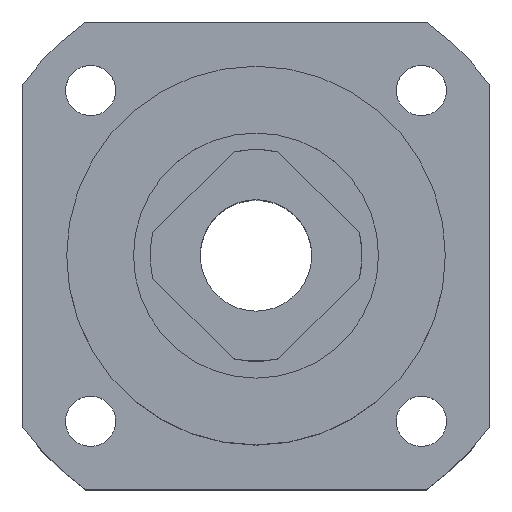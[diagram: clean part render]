
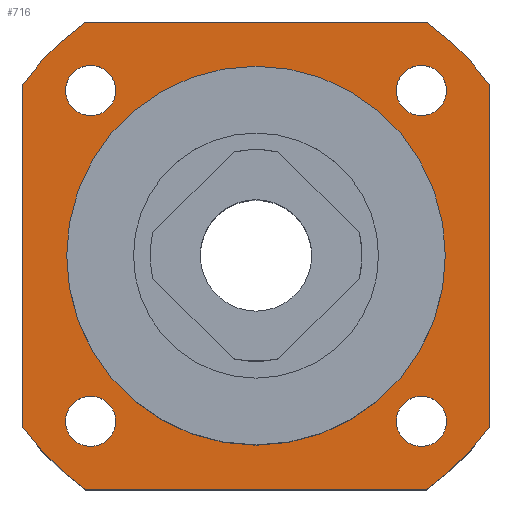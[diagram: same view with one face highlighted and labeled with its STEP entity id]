
A CAD part, top view. The second image highlights one B-rep face of the part: STEP entity #716.
In plain terms, the highlighted planar face has unit normal (0, 0, 1).
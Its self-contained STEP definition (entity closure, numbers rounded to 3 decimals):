
#35=LINE($,#1340,#67);
#38=LINE($,#1348,#70);
#41=LINE($,#1356,#73);
#44=LINE($,#1363,#76);
#67=VECTOR($,#1000,30.659);
#70=VECTOR($,#1009,30.659);
#73=VECTOR($,#1018,30.659);
#76=VECTOR($,#1027,30.659);
#190=FACE_BOUND($,#278,.T.);
#191=FACE_BOUND($,#279,.T.);
#192=FACE_BOUND($,#280,.T.);
#193=FACE_BOUND($,#281,.T.);
#194=FACE_BOUND($,#282,.T.);
#195=FACE_BOUND($,#283,.T.);
#278=EDGE_LOOP($,(#637));
#279=EDGE_LOOP($,(#638));
#280=EDGE_LOOP($,(#639));
#281=EDGE_LOOP($,(#640));
#282=EDGE_LOOP($,(#641));
#283=EDGE_LOOP($,(#642,#643,#644,#645,#646,#647,#648,#649));
#320=CIRCLE($,#788,2.25);
#321=CIRCLE($,#790,2.25);
#322=CIRCLE($,#792,2.25);
#323=CIRCLE($,#794,2.25);
#325=CIRCLE($,#797,17.);
#326=CIRCLE($,#800,26.);
#327=CIRCLE($,#803,26.);
#328=CIRCLE($,#806,26.);
#329=CIRCLE($,#809,26.);
#384=VERTEX_POINT($,#1315);
#385=VERTEX_POINT($,#1318);
#386=VERTEX_POINT($,#1321);
#387=VERTEX_POINT($,#1324);
#389=VERTEX_POINT($,#1329);
#390=VERTEX_POINT($,#1333);
#391=VERTEX_POINT($,#1335);
#392=VERTEX_POINT($,#1339);
#393=VERTEX_POINT($,#1343);
#394=VERTEX_POINT($,#1347);
#395=VERTEX_POINT($,#1351);
#396=VERTEX_POINT($,#1355);
#397=VERTEX_POINT($,#1359);
#460=EDGE_CURVE($,#384,#384,#320,.T.);
#461=EDGE_CURVE($,#385,#385,#321,.T.);
#462=EDGE_CURVE($,#386,#386,#322,.T.);
#463=EDGE_CURVE($,#387,#387,#323,.T.);
#465=EDGE_CURVE($,#389,#389,#325,.T.);
#467=EDGE_CURVE($,#391,#390,#326,.T.);
#469=EDGE_CURVE($,#392,#391,#35,.T.);
#471=EDGE_CURVE($,#393,#392,#327,.T.);
#473=EDGE_CURVE($,#394,#393,#38,.T.);
#475=EDGE_CURVE($,#395,#394,#328,.T.);
#477=EDGE_CURVE($,#396,#395,#41,.T.);
#479=EDGE_CURVE($,#397,#396,#329,.T.);
#481=EDGE_CURVE($,#390,#397,#44,.T.);
#637=ORIENTED_EDGE($,*,*,#460,.T.);
#638=ORIENTED_EDGE($,*,*,#461,.T.);
#639=ORIENTED_EDGE($,*,*,#462,.T.);
#640=ORIENTED_EDGE($,*,*,#463,.T.);
#641=ORIENTED_EDGE($,*,*,#465,.T.);
#642=ORIENTED_EDGE($,*,*,#481,.T.);
#643=ORIENTED_EDGE($,*,*,#479,.T.);
#644=ORIENTED_EDGE($,*,*,#477,.T.);
#645=ORIENTED_EDGE($,*,*,#475,.T.);
#646=ORIENTED_EDGE($,*,*,#473,.T.);
#647=ORIENTED_EDGE($,*,*,#471,.T.);
#648=ORIENTED_EDGE($,*,*,#469,.T.);
#649=ORIENTED_EDGE($,*,*,#467,.T.);
#670=PLANE($,#811);
#716=ADVANCED_FACE($,(#190,#191,#192,#193,#194,#195),#670,.T.);
#788=AXIS2_PLACEMENT_3D($,#1316,#970,#971);
#790=AXIS2_PLACEMENT_3D($,#1319,#974,#975);
#792=AXIS2_PLACEMENT_3D($,#1322,#978,#979);
#794=AXIS2_PLACEMENT_3D($,#1325,#982,#983);
#797=AXIS2_PLACEMENT_3D($,#1330,#988,#989);
#800=AXIS2_PLACEMENT_3D($,#1336,#995,#996);
#803=AXIS2_PLACEMENT_3D($,#1344,#1004,#1005);
#806=AXIS2_PLACEMENT_3D($,#1352,#1013,#1014);
#809=AXIS2_PLACEMENT_3D($,#1360,#1022,#1023);
#811=AXIS2_PLACEMENT_3D($,#1364,#1028,#1029);
#970=DIRECTION('center_axis',(0.,0.,-1.));
#971=DIRECTION('ref_axis',(-1.,0.,0.));
#974=DIRECTION('center_axis',(0.,0.,-1.));
#975=DIRECTION('ref_axis',(-1.,0.,0.));
#978=DIRECTION('center_axis',(0.,0.,-1.));
#979=DIRECTION('ref_axis',(-1.,0.,0.));
#982=DIRECTION('center_axis',(0.,0.,-1.));
#983=DIRECTION('ref_axis',(-1.,0.,0.));
#988=DIRECTION('center_axis',(0.,0.,-1.));
#989=DIRECTION('ref_axis',(-1.,0.,0.));
#995=DIRECTION('center_axis',(0.,0.,1.));
#996=DIRECTION('ref_axis',(-0.808,-0.59,0.));
#1000=DIRECTION($,(0.,1.,0.));
#1004=DIRECTION('center_axis',(0.,0.,1.));
#1005=DIRECTION('ref_axis',(-0.59,0.808,0.));
#1009=DIRECTION($,(1.,0.,0.));
#1013=DIRECTION('center_axis',(0.,0.,1.));
#1014=DIRECTION('ref_axis',(0.808,0.59,0.));
#1018=DIRECTION($,(0.,-1.,0.));
#1022=DIRECTION('center_axis',(0.,0.,1.));
#1023=DIRECTION('ref_axis',(0.59,-0.808,0.));
#1027=DIRECTION($,(-1.,0.,0.));
#1028=DIRECTION('center_axis',(0.,0.,1.));
#1029=DIRECTION('ref_axis',(1.,0.,0.));
#1315=CARTESIAN_POINT('',(-12.599,-14.849,5.));
#1316=CARTESIAN_POINT('Origin',(-14.849,-14.849,5.));
#1318=CARTESIAN_POINT('',(17.099,14.849,5.));
#1319=CARTESIAN_POINT('Origin',(14.849,14.849,5.));
#1321=CARTESIAN_POINT('',(17.099,-14.849,5.));
#1322=CARTESIAN_POINT('Origin',(14.849,-14.849,5.));
#1324=CARTESIAN_POINT('',(-12.599,14.849,5.));
#1325=CARTESIAN_POINT('Origin',(-14.849,14.849,5.));
#1329=CARTESIAN_POINT('',(17.,0.,5.));
#1330=CARTESIAN_POINT('Origin',(0.,0.,5.));
#1333=CARTESIAN_POINT('',(15.33,21.,5.));
#1335=CARTESIAN_POINT('',(21.,15.33,5.));
#1336=CARTESIAN_POINT('Origin',(0.,0.,5.));
#1339=CARTESIAN_POINT('',(21.,-15.33,5.));
#1340=CARTESIAN_POINT($,(21.,15.33,5.));
#1343=CARTESIAN_POINT('',(15.33,-21.,5.));
#1344=CARTESIAN_POINT('Origin',(0.,0.,5.));
#1347=CARTESIAN_POINT('',(-15.33,-21.,5.));
#1348=CARTESIAN_POINT($,(15.33,-21.,5.));
#1351=CARTESIAN_POINT('',(-21.,-15.33,5.));
#1352=CARTESIAN_POINT('Origin',(0.,0.,5.));
#1355=CARTESIAN_POINT('',(-21.,15.33,5.));
#1356=CARTESIAN_POINT($,(-21.,-15.33,5.));
#1359=CARTESIAN_POINT('',(-15.33,21.,5.));
#1360=CARTESIAN_POINT('Origin',(0.,0.,5.));
#1363=CARTESIAN_POINT($,(-15.33,21.,5.));
#1364=CARTESIAN_POINT('Origin',(0.,0.,
5.));
